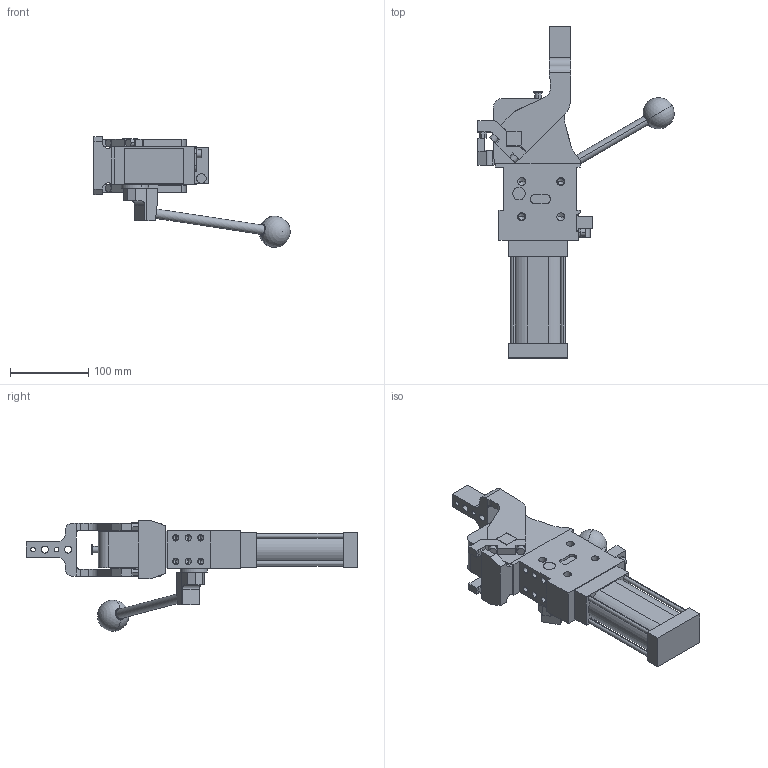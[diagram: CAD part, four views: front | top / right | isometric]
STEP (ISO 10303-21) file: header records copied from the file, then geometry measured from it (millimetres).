
FILE_DESCRIPTION (( 'STEP AP214' ), '1' );
FILE_NAME ('cplm50lbth3csi1g_75.STEP', '2023-01-26T14:04:41', ( '' ), ( '' ), 'SwSTEP 2.0', 'SolidWorks 2022', '' );
FILE_SCHEMA (( 'AUTOMOTIVE_DESIGN' ));
Length unit declared in the file: millimetre
Products named in the file (5): comando_manuale_cplm_50; meccanica_cplm_50_tassello_esterno; leva_h3cs_cpl50t; blocchetto_VEP_0; cplm50lbth3csi1g_75
Assembly tree (4 placements, depth 2):
  cplm50lbth3csi1g_75
    meccanica_cplm_50_tassello_esterno
    blocchetto_VEP_0
    leva_h3cs_cpl50t
    comando_manuale_cplm_50
Bounding box: 250.96 x 424.5 x 141.5 mm (x, y, z)
Volume: 1512957.1 mm3; surface area: 193013.7 mm2
Topology: 4 solids, 4 shells, 470 faces, 1219 edges, 765 vertices
Faces by surface type: plane 245, cylinder 173, cone 50, sphere 2
Entity records: 15624 total; most frequent: DIRECTION 2484, CARTESIAN_POINT 2483, ORIENTED_EDGE 2336, EDGE_CURVE 1168, AXIS2_PLACEMENT_3D 845, VECTOR 794, LINE 794, VERTEX_POINT 762
